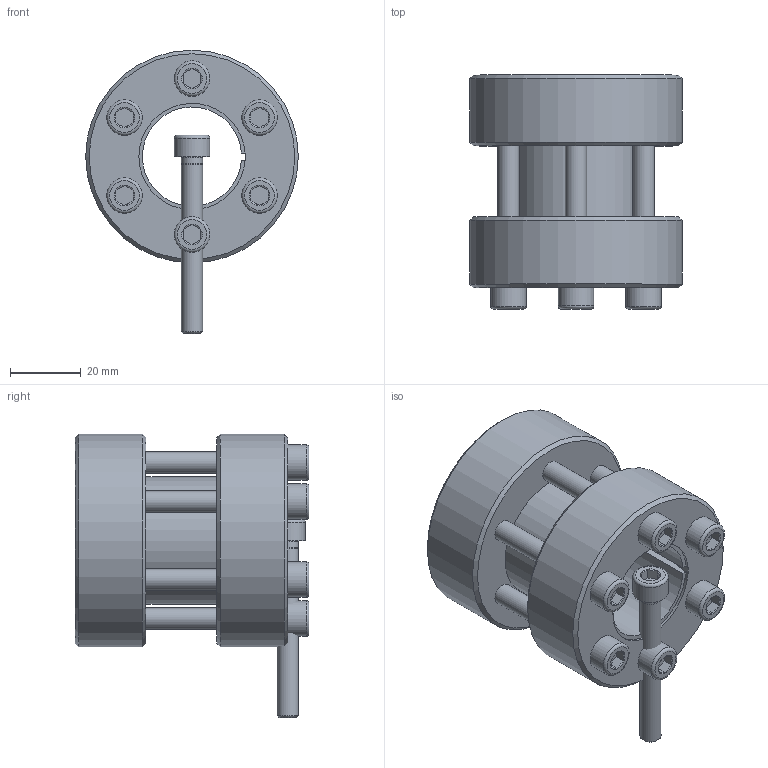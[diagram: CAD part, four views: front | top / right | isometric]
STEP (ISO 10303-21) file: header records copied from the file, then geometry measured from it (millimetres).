
FILE_DESCRIPTION( ( 'Unknown' ), '1' );
FILE_NAME( 'C:/Dokumente und Einstellungen/Sven/Desktop/homepage/cad - homepage/KBS95/KBS 95 - 28 x 60.stp', 'Unknown', ( 'Unknown' ), ( 'Unknown' ), 'XStep 1.0', 'Unknown', ' ' );
FILE_SCHEMA( ( 'automotive_design' ) );
Length unit declared in the file: millimetre
Products named in the file (3): Assem1; KBS 95 - 28 x 60; ISO EN DIN 4762 M6x50
Bounding box: 60 x 66 x 80 mm (x, y, z)
Volume: 190288.9 mm3; surface area: 63037.3 mm2
Topology: 9 solids, 9 shells, 239 faces, 499 edges, 306 vertices
Faces by surface type: plane 104, cone 61, cylinder 60, torus 14
Full cylindrical faces by diameter (mm): 5 x7, 6 x38, 10 x7, 60 x4
Entity records: 1850 total; most frequent: CARTESIAN_POINT 317, DIRECTION 280, ORIENTED_EDGE 206, AXIS2_PLACEMENT_3D 122, EDGE_LOOP 114, EDGE_CURVE 103, VERTEX_POINT 79, FACE_OUTER_BOUND 77
